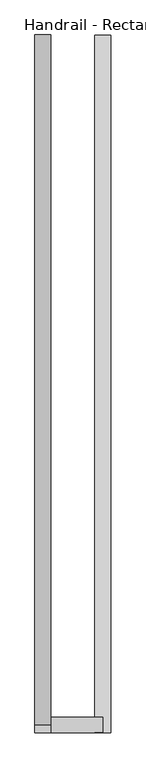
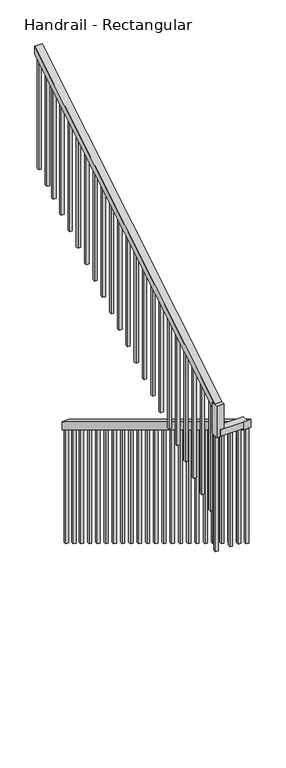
"""IFC4 building model written with IfcOpenShell, lengths in millimetres: railing geometry, Handrail - Rectangular."""

from ifc_helpers import new_model, si_unit, frame, origin, place, context, project, spatial, polyline, outline, extrude, source, transform, mapped, element, save


def handrail_rectangular_0411ff3c(model_context):
    return source(origin(), model_context, "Body", "SweptSolid", [
        extrude(outline(polyline([(-12204.7769844, 40707.7333333), (-12204.7769844, 40648.3318731), (-14439.9769844, 42002.9985397), (-14439.9769844, 42062.4), (-12204.7769844, 40707.7333333)])), frame((-24006.2042336, 0.0, 0.0), z_axis=(1.0, 0.0, 0.0), x_axis=(0.0, 1.0, 0.0)), (0.0, 0.0, 1.0), 50.8),
        extrude(outline(polyline([(-23980.8042336, -14389.1769844), (-23980.8042336, -14439.9769844), (-24172.8917336, -14439.9769844), (-24172.8917336, -14389.1769844), (-23980.8042336, -14389.1769844)])), frame((0.0, 0.0, 42011.6), z_axis=(0.0, 0.0, 1.0), x_axis=(1.0, 0.0, 0.0)), (0.0, 0.0, 1.0), 50.8),
        extrude(outline(polyline([(-24198.2917336, -14439.9769844), (-24198.2917336, -14389.1769844), (-24147.4917336, -14389.1769844), (-24147.4917336, -14439.9769844), (-24198.2917336, -14439.9769844)])), frame((0.0, 0.0, 42011.6), z_axis=(0.0, 0.0, 1.0), x_axis=(1.0, 0.0, 0.0)), (0.0, 0.0, 1.0), 235.5272727),
        extrude(outline(polyline([(-14414.5769844, 42187.7258125), (-14414.5769844, 42247.1272727), (-12204.7769844, 43586.4), (-12204.7769844, 43526.9985397), (-14414.5769844, 42187.7258125)])), frame((-24198.2917336, 0.0, 0.0), z_axis=(1.0, 0.0, 0.0), x_axis=(0.0, 1.0, 0.0)), (0.0, 0.0, 1.0), 50.8),
        extrude(outline(polyline([(-12204.7769844, 42666.2272727), (-12223.8269844, 42666.2272727), (-12223.8269844, 43515.4530852), (-12204.7769844, 43526.9985397), (-12204.7769844, 42666.2272727)])), frame((-24182.4167336, 0.0, 0.0), z_axis=(1.0, 0.0, 0.0), x_axis=(0.0, 1.0, 0.0)), (0.0, 0.0, 1.0), 19.05),
        extrude(outline(polyline([(-12306.3769844, 42604.6515152), (-12325.4269844, 42604.6515152), (-12325.4269844, 43453.8773276), (-12306.3769844, 43465.4227822), (-12306.3769844, 42604.6515152)])), frame((-24182.4167336, 0.0, 0.0), z_axis=(1.0, 0.0, 0.0), x_axis=(0.0, 1.0, 0.0)), (0.0, 0.0, 1.0), 19.05),
        extrude(outline(polyline([(-12385.7519844, 42556.5454545), (-12404.8019844, 42556.5454545), (-12404.8019844, 43405.771267), (-12385.7519844, 43417.3167216), (-12385.7519844, 42556.5454545)])), frame((-24182.4167336, 0.0, 0.0), z_axis=(1.0, 0.0, 0.0), x_axis=(0.0, 1.0, 0.0)), (0.0, 0.0, 1.0), 19.05),
        extrude(outline(polyline([(-12484.1769844, 42496.8939394), (-12503.2269844, 42496.8939394), (-12503.2269844, 43346.1197519), (-12484.1769844, 43357.6652064), (-12484.1769844, 42496.8939394)])), frame((-24182.4167336, 0.0, 0.0), z_axis=(1.0, 0.0, 0.0), x_axis=(0.0, 1.0, 0.0)), (0.0, 0.0, 1.0), 19.05),
        extrude(outline(polyline([(-12585.7769844, 42435.3181818), (-12604.8269844, 42435.3181818), (-12604.8269844, 43284.5439943), (-12585.7769844, 43296.0894488), (-12585.7769844, 42435.3181818)])), frame((-24182.4167336, 0.0, 0.0), z_axis=(1.0, 0.0, 0.0), x_axis=(0.0, 1.0, 0.0)), (0.0, 0.0, 1.0), 19.05),
        extrude(outline(polyline([(-12687.3769844, 42373.7424242), (-12706.4269844, 42373.7424242), (-12706.4269844, 43222.9682367), (-12687.3769844, 43234.5136913), (-12687.3769844, 42373.7424242)])), frame((-24182.4167336, 0.0, 0.0), z_axis=(1.0, 0.0, 0.0), x_axis=(0.0, 1.0, 0.0)), (0.0, 0.0, 1.0), 19.05),
        extrude(outline(polyline([(-12788.9769844, 42312.1666667), (-12808.0269844, 42312.1666667), (-12808.0269844, 43161.3924791), (-12788.9769844, 43172.9379337), (-12788.9769844, 42312.1666667)])), frame((-24182.4167336, 0.0, 0.0), z_axis=(1.0, 0.0, 0.0), x_axis=(0.0, 1.0, 0.0)), (0.0, 0.0, 1.0), 19.05),
        extrude(outline(polyline([(-12890.5769844, 42250.5909091), (-12909.6269844, 42250.5909091), (-12909.6269844, 43099.8167216), (-12890.5769844, 43111.3621761), (-12890.5769844, 42250.5909091)])), frame((-24182.4167336, 0.0, 0.0), z_axis=(1.0, 0.0, 0.0), x_axis=(0.0, 1.0, 0.0)), (0.0, 0.0, 1.0), 19.05),
        extrude(outline(polyline([(-12992.1769844, 42189.0151515), (-13011.2269844, 42189.0151515), (-13011.2269844, 43038.240964), (-12992.1769844, 43049.7864185), (-12992.1769844, 42189.0151515)])), frame((-24182.4167336, 0.0, 0.0), z_axis=(1.0, 0.0, 0.0), x_axis=(0.0, 1.0, 0.0)), (0.0, 0.0, 1.0), 19.05),
        extrude(outline(polyline([(-13093.7769844, 42127.4393939), (-13112.8269844, 42127.4393939), (-13112.8269844, 42976.6652064), (-13093.7769844, 42988.210661), (-13093.7769844, 42127.4393939)])), frame((-24182.4167336, 0.0, 0.0), z_axis=(1.0, 0.0, 0.0), x_axis=(0.0, 1.0, 0.0)), (0.0, 0.0, 1.0), 19.05),
        extrude(outline(polyline([(-13195.3769844, 42065.8636364), (-13214.4269844, 42065.8636364), (-13214.4269844, 42915.0894488), (-13195.3769844, 42926.6349034), (-13195.3769844, 42065.8636364)])), frame((-24182.4167336, 0.0, 0.0), z_axis=(1.0, 0.0, 0.0), x_axis=(0.0, 1.0, 0.0)), (0.0, 0.0, 1.0), 19.05),
        extrude(outline(polyline([(-13296.9769844, 42004.2878788), (-13316.0269844, 42004.2878788), (-13316.0269844, 42853.5136913), (-13296.9769844, 42865.0591458), (-13296.9769844, 42004.2878788)])), frame((-24182.4167336, 0.0, 0.0), z_axis=(1.0, 0.0, 0.0), x_axis=(0.0, 1.0, 0.0)), (0.0, 0.0, 1.0), 19.05),
        extrude(outline(polyline([(-13398.5769844, 41942.7121212), (-13417.6269844, 41942.7121212), (-13417.6269844, 42791.9379337), (-13398.5769844, 42803.4833882), (-13398.5769844, 41942.7121212)])), frame((-24182.4167336, 0.0, 0.0), z_axis=(1.0, 0.0, 0.0), x_axis=(0.0, 1.0, 0.0)), (0.0, 0.0, 1.0), 19.05),
        extrude(outline(polyline([(-13500.1769844, 41881.1363636), (-13519.2269844, 41881.1363636), (-13519.2269844, 42730.3621761), (-13500.1769844, 42741.9076307), (-13500.1769844, 41881.1363636)])), frame((-24182.4167336, 0.0, 0.0), z_axis=(1.0, 0.0, 0.0), x_axis=(0.0, 1.0, 0.0)), (0.0, 0.0, 1.0), 19.05),
        extrude(outline(polyline([(-13601.7769844, 41819.5606061), (-13620.8269844, 41819.5606061), (-13620.8269844, 42668.7864185), (-13601.7769844, 42680.3318731), (-13601.7769844, 41819.5606061)])), frame((-24182.4167336, 0.0, 0.0), z_axis=(1.0, 0.0, 0.0), x_axis=(0.0, 1.0, 0.0)), (0.0, 0.0, 1.0), 19.05),
        extrude(outline(polyline([(-13703.3769844, 41757.9848485), (-13722.4269844, 41757.9848485), (-13722.4269844, 42607.210661), (-13703.3769844, 42618.7561155), (-13703.3769844, 41757.9848485)])), frame((-24182.4167336, 0.0, 0.0), z_axis=(1.0, 0.0, 0.0), x_axis=(0.0, 1.0, 0.0)), (0.0, 0.0, 1.0), 19.05),
        extrude(outline(polyline([(-13804.9769844, 41696.4090909), (-13824.0269844, 41696.4090909), (-13824.0269844, 42545.6349034), (-13804.9769844, 42557.1803579), (-13804.9769844, 41696.4090909)])), frame((-24182.4167336, 0.0, 0.0), z_axis=(1.0, 0.0, 0.0), x_axis=(0.0, 1.0, 0.0)), (0.0, 0.0, 1.0), 19.05),
        extrude(outline(polyline([(-13906.5769844, 41634.8333333), (-13925.6269844, 41634.8333333), (-13925.6269844, 42484.0591458), (-13906.5769844, 42495.6046004), (-13906.5769844, 41634.8333333)])), frame((-24182.4167336, 0.0, 0.0), z_axis=(1.0, 0.0, 0.0), x_axis=(0.0, 1.0, 0.0)), (0.0, 0.0, 1.0), 19.05),
        extrude(outline(polyline([(-14008.1769844, 41573.2575758), (-14027.2269844, 41573.2575758), (-14027.2269844, 42422.4833882), (-14008.1769844, 42434.0288428), (-14008.1769844, 41573.2575758)])), frame((-24182.4167336, 0.0, 0.0), z_axis=(1.0, 0.0, 0.0), x_axis=(0.0, 1.0, 0.0)), (0.0, 0.0, 1.0), 19.05),
        extrude(outline(polyline([(-14109.7769844, 41511.6818182), (-14128.8269844, 41511.6818182), (-14128.8269844, 42360.9076307), (-14109.7769844, 42372.4530852), (-14109.7769844, 41511.6818182)])), frame((-24182.4167336, 0.0, 0.0), z_axis=(1.0, 0.0, 0.0), x_axis=(0.0, 1.0, 0.0)), (0.0, 0.0, 1.0), 19.05),
        extrude(outline(polyline([(-14211.3769844, 41450.1060606), (-14230.4269844, 41450.1060606), (-14230.4269844, 42299.3318731), (-14211.3769844, 42310.8773276), (-14211.3769844, 41450.1060606)])), frame((-24182.4167336, 0.0, 0.0), z_axis=(1.0, 0.0, 0.0), x_axis=(0.0, 1.0, 0.0)), (0.0, 0.0, 1.0), 19.05),
        extrude(outline(polyline([(-14312.9769844, 41388.530303), (-14332.0269844, 41388.530303), (-14332.0269844, 42237.7561155), (-14312.9769844, 42249.30157), (-14312.9769844, 41388.530303)])), frame((-24182.4167336, 0.0, 0.0), z_axis=(1.0, 0.0, 0.0), x_axis=(0.0, 1.0, 0.0)), (0.0, 0.0, 1.0), 19.05),
        extrude(outline(polyline([(-14366.9519844, 41355.8181818), (-14386.0019844, 41355.8181818), (-14386.0019844, 42205.0439943), (-14366.9519844, 42216.5894488), (-14366.9519844, 41355.8181818)])), frame((-24182.4167336, 0.0, 0.0), z_axis=(1.0, 0.0, 0.0), x_axis=(0.0, 1.0, 0.0)), (0.0, 0.0, 1.0), 19.05),
        extrude(outline(polyline([(-24179.2417336, -14424.1019844), (-24198.2917336, -14424.1019844), (-24198.2917336, -14405.0519844), (-24179.2417336, -14405.0519844), (-24179.2417336, -14424.1019844)])), frame((0.0, 0.0, 41148.0), z_axis=(0.0, 0.0, 1.0), x_axis=(1.0, 0.0, 0.0)), (0.0, 0.0, 1.0), 863.6),
        extrude(outline(polyline([(-24077.6417336, -14424.1019844), (-24096.6917336, -14424.1019844), (-24096.6917336, -14405.0519844), (-24077.6417336, -14405.0519844), (-24077.6417336, -14424.1019844)])), frame((0.0, 0.0, 41148.0), z_axis=(0.0, 0.0, 1.0), x_axis=(1.0, 0.0, 0.0)), (0.0, 0.0, 1.0), 863.6),
        extrude(outline(polyline([(-24016.5229836, -14424.1019844), (-24035.5729836, -14424.1019844), (-24035.5729836, -14405.0519844), (-24016.5229836, -14405.0519844), (-24016.5229836, -14424.1019844)])), frame((0.0, 0.0, 41148.0), z_axis=(0.0, 0.0, 1.0), x_axis=(1.0, 0.0, 0.0)), (0.0, 0.0, 1.0), 863.6),
        extrude(outline(polyline([(-14420.9269844, 41142.2272727), (-14439.9769844, 41142.2272727), (-14439.9769844, 42002.9985397), (-14420.9269844, 41991.4530852), (-14420.9269844, 41142.2272727)])), frame((-23990.3292336, 0.0, 0.0), z_axis=(1.0, 0.0, 0.0), x_axis=(0.0, 1.0, 0.0)), (0.0, 0.0, 1.0), 19.05),
        extrude(outline(polyline([(-14319.3269844, 41080.6515152), (-14338.3769844, 41080.6515152), (-14338.3769844, 41941.4227822), (-14319.3269844, 41929.8773276), (-14319.3269844, 41080.6515152)])), frame((-23990.3292336, 0.0, 0.0), z_axis=(1.0, 0.0, 0.0), x_axis=(0.0, 1.0, 0.0)), (0.0, 0.0, 1.0), 19.05),
        extrude(outline(polyline([(-14217.7269844, 41019.0757576), (-14236.7769844, 41019.0757576), (-14236.7769844, 41879.8470246), (-14217.7269844, 41868.30157), (-14217.7269844, 41019.0757576)])), frame((-23990.3292336, 0.0, 0.0), z_axis=(1.0, 0.0, 0.0), x_axis=(0.0, 1.0, 0.0)), (0.0, 0.0, 1.0), 19.05),
        extrude(outline(polyline([(-14116.1269844, 40957.5), (-14135.1769844, 40957.5), (-14135.1769844, 41818.271267), (-14116.1269844, 41806.7258125), (-14116.1269844, 40957.5)])), frame((-23990.3292336, 0.0, 0.0), z_axis=(1.0, 0.0, 0.0), x_axis=(0.0, 1.0, 0.0)), (0.0, 0.0, 1.0), 19.05),
        extrude(outline(polyline([(-14014.5269844, 40895.9242424), (-14033.5769844, 40895.9242424), (-14033.5769844, 41756.6955094), (-14014.5269844, 41745.1500549), (-14014.5269844, 40895.9242424)])), frame((-23990.3292336, 0.0, 0.0), z_axis=(1.0, 0.0, 0.0), x_axis=(0.0, 1.0, 0.0)), (0.0, 0.0, 1.0), 19.05),
        extrude(outline(polyline([(-13912.9269844, 40834.3484848), (-13931.9769844, 40834.3484848), (-13931.9769844, 41695.1197519), (-13912.9269844, 41683.5742973), (-13912.9269844, 40834.3484848)])), frame((-23990.3292336, 0.0, 0.0), z_axis=(1.0, 0.0, 0.0), x_axis=(0.0, 1.0, 0.0)), (0.0, 0.0, 1.0), 19.05),
        extrude(outline(polyline([(-13811.3269844, 40772.7727273), (-13830.3769844, 40772.7727273), (-13830.3769844, 41633.5439943), (-13811.3269844, 41621.9985397), (-13811.3269844, 40772.7727273)])), frame((-23990.3292336, 0.0, 0.0), z_axis=(1.0, 0.0, 0.0), x_axis=(0.0, 1.0, 0.0)), (0.0, 0.0, 1.0), 19.05),
        extrude(outline(polyline([(-13709.7269844, 40711.1969697), (-13728.7769844, 40711.1969697), (-13728.7769844, 41571.9682367), (-13709.7269844, 41560.4227822), (-13709.7269844, 40711.1969697)])), frame((-23990.3292336, 0.0, 0.0), z_axis=(1.0, 0.0, 0.0), x_axis=(0.0, 1.0, 0.0)), (0.0, 0.0, 1.0), 19.05),
        extrude(outline(polyline([(-13608.1269844, 40649.6212121), (-13627.1769844, 40649.6212121), (-13627.1769844, 41510.3924791), (-13608.1269844, 41498.8470246), (-13608.1269844, 40649.6212121)])), frame((-23990.3292336, 0.0, 0.0), z_axis=(1.0, 0.0, 0.0), x_axis=(0.0, 1.0, 0.0)), (0.0, 0.0, 1.0), 19.05),
        extrude(outline(polyline([(-13506.5269844, 40588.0454545), (-13525.5769844, 40588.0454545), (-13525.5769844, 41448.8167216), (-13506.5269844, 41437.271267), (-13506.5269844, 40588.0454545)])), frame((-23990.3292336, 0.0, 0.0), z_axis=(1.0, 0.0, 0.0), x_axis=(0.0, 1.0, 0.0)), (0.0, 0.0, 1.0), 19.05),
        extrude(outline(polyline([(-13404.9269844, 40526.469697), (-13423.9769844, 40526.469697), (-13423.9769844, 41387.240964), (-13404.9269844, 41375.6955094), (-13404.9269844, 40526.469697)])), frame((-23990.3292336, 0.0, 0.0), z_axis=(1.0, 0.0, 0.0), x_axis=(0.0, 1.0, 0.0)), (0.0, 0.0, 1.0), 19.05),
        extrude(outline(polyline([(-13303.3269844, 40464.8939394), (-13322.3769844, 40464.8939394), (-13322.3769844, 41325.6652064), (-13303.3269844, 41314.1197519), (-13303.3269844, 40464.8939394)])), frame((-23990.3292336, 0.0, 0.0), z_axis=(1.0, 0.0, 0.0), x_axis=(0.0, 1.0, 0.0)), (0.0, 0.0, 1.0), 19.05),
        extrude(outline(polyline([(-13201.7269844, 40403.3181818), (-13220.7769844, 40403.3181818), (-13220.7769844, 41264.0894488), (-13201.7269844, 41252.5439943), (-13201.7269844, 40403.3181818)])), frame((-23990.3292336, 0.0, 0.0), z_axis=(1.0, 0.0, 0.0), x_axis=(0.0, 1.0, 0.0)), (0.0, 0.0, 1.0), 19.05),
        extrude(outline(polyline([(-13100.1269844, 40341.7424242), (-13119.1769844, 40341.7424242), (-13119.1769844, 41202.5136913), (-13100.1269844, 41190.9682367), (-13100.1269844, 40341.7424242)])), frame((-23990.3292336, 0.0, 0.0), z_axis=(1.0, 0.0, 0.0), x_axis=(0.0, 1.0, 0.0)), (0.0, 0.0, 1.0), 19.05),
        extrude(outline(polyline([(-12998.5269844, 40280.1666667), (-13017.5769844, 40280.1666667), (-13017.5769844, 41140.9379337), (-12998.5269844, 41129.3924791), (-12998.5269844, 40280.1666667)])), frame((-23990.3292336, 0.0, 0.0), z_axis=(1.0, 0.0, 0.0), x_axis=(0.0, 1.0, 0.0)), (0.0, 0.0, 1.0), 19.05),
        extrude(outline(polyline([(-12896.9269844, 40218.5909091), (-12915.9769844, 40218.5909091), (-12915.9769844, 41079.3621761), (-12896.9269844, 41067.8167216), (-12896.9269844, 40218.5909091)])), frame((-23990.3292336, 0.0, 0.0), z_axis=(1.0, 0.0, 0.0), x_axis=(0.0, 1.0, 0.0)), (0.0, 0.0, 1.0), 19.05),
        extrude(outline(polyline([(-12795.3269844, 40157.0151515), (-12814.3769844, 40157.0151515), (-12814.3769844, 41017.7864185), (-12795.3269844, 41006.240964), (-12795.3269844, 40157.0151515)])), frame((-23990.3292336, 0.0, 0.0), z_axis=(1.0, 0.0, 0.0), x_axis=(0.0, 1.0, 0.0)), (0.0, 0.0, 1.0), 19.05),
        extrude(outline(polyline([(-12693.7269844, 40095.4393939), (-12712.7769844, 40095.4393939), (-12712.7769844, 40956.210661), (-12693.7269844, 40944.6652064), (-12693.7269844, 40095.4393939)])), frame((-23990.3292336, 0.0, 0.0), z_axis=(1.0, 0.0, 0.0), x_axis=(0.0, 1.0, 0.0)), (0.0, 0.0, 1.0), 19.05),
        extrude(outline(polyline([(-12592.1269844, 40033.8636364), (-12611.1769844, 40033.8636364), (-12611.1769844, 40894.6349034), (-12592.1269844, 40883.0894488), (-12592.1269844, 40033.8636364)])), frame((-23990.3292336, 0.0, 0.0), z_axis=(1.0, 0.0, 0.0), x_axis=(0.0, 1.0, 0.0)), (0.0, 0.0, 1.0), 19.05),
        extrude(outline(polyline([(-12490.5269844, 39972.2878788), (-12509.5769844, 39972.2878788), (-12509.5769844, 40833.0591458), (-12490.5269844, 40821.5136913), (-12490.5269844, 39972.2878788)])), frame((-23990.3292336, 0.0, 0.0), z_axis=(1.0, 0.0, 0.0), x_axis=(0.0, 1.0, 0.0)), (0.0, 0.0, 1.0), 19.05),
        extrude(outline(polyline([(-12388.9269844, 39910.7121212), (-12407.9769844, 39910.7121212), (-12407.9769844, 40771.4833882), (-12388.9269844, 40759.9379337), (-12388.9269844, 39910.7121212)])), frame((-23990.3292336, 0.0, 0.0), z_axis=(1.0, 0.0, 0.0), x_axis=(0.0, 1.0, 0.0)), (0.0, 0.0, 1.0), 19.05),
        extrude(outline(polyline([(-12296.8519844, 39854.9090909), (-12315.9019844, 39854.9090909), (-12315.9019844, 40715.6803579), (-12296.8519844, 40704.1349034), (-12296.8519844, 39854.9090909)])), frame((-23990.3292336, 0.0, 0.0), z_axis=(1.0, 0.0, 0.0), x_axis=(0.0, 1.0, 0.0)), (0.0, 0.0, 1.0), 19.05),
        extrude(outline(polyline([(-12204.7769844, 39799.1060606), (-12223.8269844, 39799.1060606), (-12223.8269844, 40659.8773276), (-12204.7769844, 40648.3318731), (-12204.7769844, 39799.1060606)])), frame((-23990.3292336, 0.0, 0.0), z_axis=(1.0, 0.0, 0.0), x_axis=(0.0, 1.0, 0.0)), (0.0, 0.0, 1.0), 19.05),
    ])


if __name__ == "__main__":
    model = new_model("IFC4")
    model_context = context("Model", 3, world=origin())
    ifc_project = project(units=[si_unit("LENGTHUNIT", "METRE", prefix="MILLI")], contexts=[model_context])
    site = spatial("IfcSite", under=ifc_project)
    building = spatial("IfcBuilding", under=site)
    placement = place(None, origin())
    handrail_rectangular_shape = handrail_rectangular_0411ff3c(model_context)
    element("IfcRailing", 1, ObjectType="Handrail - Rectangular", at=placement, inside=building, context=model_context, shape_type="MappedRepresentation", body=[
        mapped(handrail_rectangular_shape, transform((0.0, 0.0, 0.0), x_axis=(1.0, 0.0, 0.0), y_axis=(0.0, 1.0, 0.0), z_axis=(0.0, 0.0, 1.0))),
    ])
    save(model, "model.ifc")
